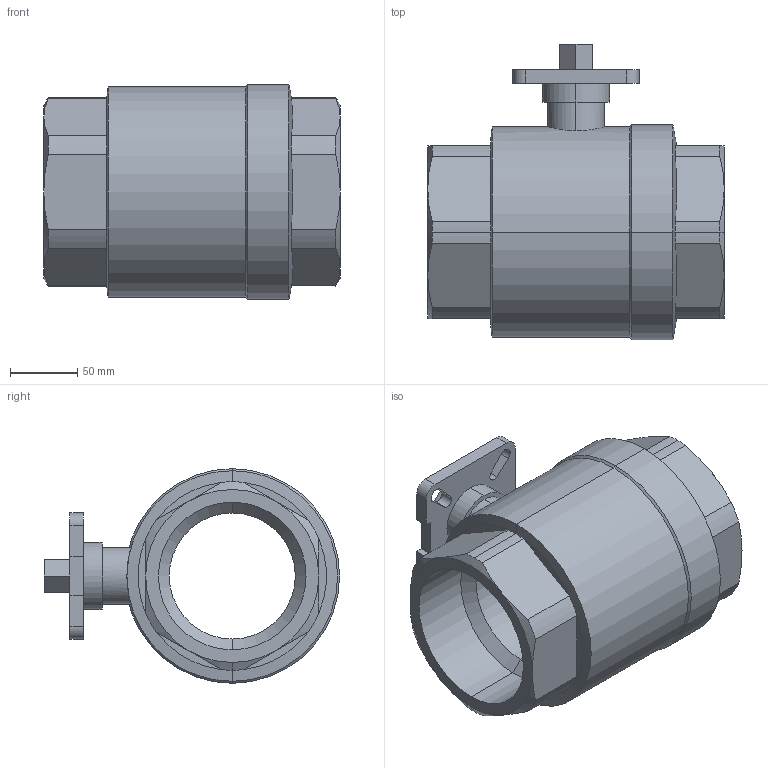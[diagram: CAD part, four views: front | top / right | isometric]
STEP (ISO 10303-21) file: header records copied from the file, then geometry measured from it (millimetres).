
FILE_DESCRIPTION (( 'STEP AP203' ), '1' );
FILE_NAME ('B3.622I1000FVPB0.STEP', '2018-10-02T08:06:43', ( '' ), ( '' ), 'SwSTEP 2.0', 'SolidWorks 2014', '' );
FILE_SCHEMA (( 'CONFIG_CONTROL_DESIGN' ));
Length unit declared in the file: millimetre
Products named in the file (1): B3.622I1000FVPB0
Bounding box: 221 x 220 x 160 mm (x, y, z)
Volume: 2219853.8 mm3; surface area: 219347.1 mm2
Topology: 1 solids, 1 shells, 116 faces, 287 edges, 177 vertices
Faces by surface type: plane 48, cylinder 44, cone 24
Entity records: 3763 total; most frequent: CARTESIAN_POINT 895, DIRECTION 598, ORIENTED_EDGE 574, EDGE_CURVE 287, AXIS2_PLACEMENT_3D 226, VERTEX_POINT 177, LINE 146, VECTOR 146
